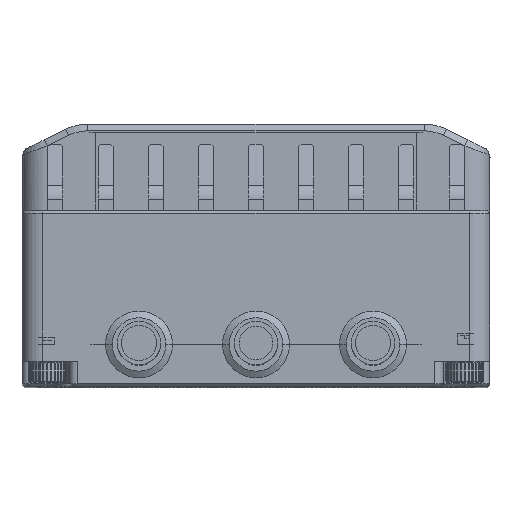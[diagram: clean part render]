
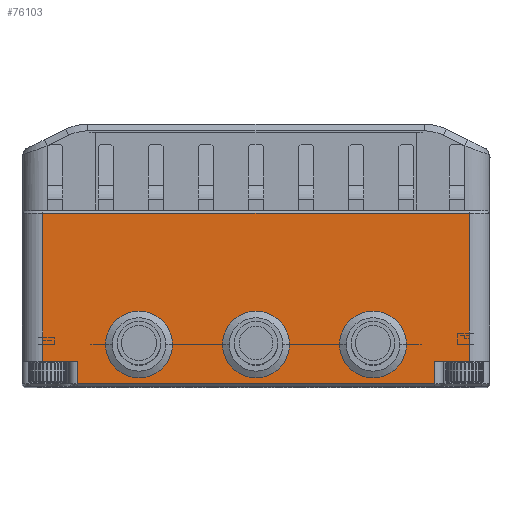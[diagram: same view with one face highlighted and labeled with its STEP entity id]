
A CAD part, top view. The second image highlights one B-rep face of the part: STEP entity #76103.
In plain terms, the highlighted planar face has unit normal (0, 0, 1).
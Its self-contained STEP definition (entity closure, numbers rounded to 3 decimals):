
#2261=DIRECTION('',(0.,-1.,0.));
#2262=VECTOR('',#2261,17.7);
#2263=CARTESIAN_POINT('',(-25.5,5.2,58.));
#2264=LINE('',#2263,#2262);
#2283=DIRECTION('',(0.,1.,0.));
#2284=VECTOR('',#2283,2.7);
#2285=CARTESIAN_POINT('',(21.4,-15.2,58.));
#2286=LINE('',#2285,#2284);
#2290=DIRECTION('',(-1.,0.,0.));
#2291=VECTOR('',#2290,42.8);
#2292=CARTESIAN_POINT('',(21.4,-15.2,58.));
#2293=LINE('',#2292,#2291);
#2297=DIRECTION('',(0.,-1.,0.));
#2298=VECTOR('',#2297,2.7);
#2299=CARTESIAN_POINT('',(-21.4,-12.5,58.));
#2300=LINE('',#2299,#2298);
#2304=DIRECTION('',(1.,0.,0.));
#2305=VECTOR('',#2304,51.);
#2306=CARTESIAN_POINT('',(-25.5,5.2,58.));
#2307=LINE('',#2306,#2305);
#2311=CARTESIAN_POINT('',(-14.,-10.5,58.));
#2312=DIRECTION('',(0.,0.,1.));
#2313=DIRECTION('',(-1.,0.,0.));
#2314=AXIS2_PLACEMENT_3D('',#2311,#2312,#2313);
#2319=CARTESIAN_POINT('',(-14.,-10.5,58.));
#2320=DIRECTION('',(0.,0.,1.));
#2321=DIRECTION('',(1.,0.,0.));
#2322=AXIS2_PLACEMENT_3D('',#2319,#2320,#2321);
#2327=CARTESIAN_POINT('',(0.,-10.5,58.));
#2328=DIRECTION('',(0.,0.,1.));
#2329=DIRECTION('',(-1.,0.,0.));
#2330=AXIS2_PLACEMENT_3D('',#2327,#2328,#2329);
#2335=CARTESIAN_POINT('',(0.,-10.5,58.));
#2336=DIRECTION('',(0.,0.,1.));
#2337=DIRECTION('',(1.,0.,0.));
#2338=AXIS2_PLACEMENT_3D('',#2335,#2336,#2337);
#2343=CARTESIAN_POINT('',(14.,-10.5,58.));
#2344=DIRECTION('',(0.,0.,1.));
#2345=DIRECTION('',(-1.,0.,0.));
#2346=AXIS2_PLACEMENT_3D('',#2343,#2344,#2345);
#2351=CARTESIAN_POINT('',(14.,-10.5,58.));
#2352=DIRECTION('',(0.,0.,1.));
#2353=DIRECTION('',(1.,0.,0.));
#2354=AXIS2_PLACEMENT_3D('',#2351,#2352,#2353);
#2366=DIRECTION('',(0.,1.,0.));
#2367=VECTOR('',#2366,17.7);
#2368=CARTESIAN_POINT('',(25.5,-12.5,58.));
#2369=LINE('',#2368,#2367);
#2528=DIRECTION('',(1.,0.,0.));
#2529=VECTOR('',#2528,4.1);
#2530=CARTESIAN_POINT('',(21.4,-12.5,58.));
#2531=LINE('',#2530,#2529);
#2609=DIRECTION('',(1.,0.,0.));
#2610=VECTOR('',#2609,4.1);
#2611=CARTESIAN_POINT('',(-25.5,-12.5,58.));
#2612=LINE('',#2611,#2610);
#66010=CARTESIAN_POINT('',(25.5,5.2,58.));
#66011=VERTEX_POINT('',#66010);
#66014=CARTESIAN_POINT('',(-25.5,5.2,
58.));
#66015=VERTEX_POINT('',#66014);
#66429=CARTESIAN_POINT('',(25.5,-12.5,58.));
#66431=VERTEX_POINT('',#66429);
#66432=CARTESIAN_POINT('',(-25.5,-12.5,58.));
#66434=VERTEX_POINT('',#66432);
#66592=CARTESIAN_POINT('',(21.4,-12.5,58.));
#66593=VERTEX_POINT('',#66592);
#66594=CARTESIAN_POINT('',(-21.4,-12.5,58.));
#66595=VERTEX_POINT('',#66594);
#66658=CARTESIAN_POINT('',(21.4,-15.2,58.));
#66659=VERTEX_POINT('',#66658);
#66662=CARTESIAN_POINT('',(-21.4,-15.2,
58.));
#66663=VERTEX_POINT('',#66662);
#73766=CARTESIAN_POINT('',(-18.,-10.5,58.));
#73767=CARTESIAN_POINT('',(-10.,-10.5,58.));
#73768=VERTEX_POINT('',#73766);
#73769=VERTEX_POINT('',#73767);
#73802=CARTESIAN_POINT('',(-4.,-10.5,58.));
#73803=CARTESIAN_POINT('',(4.,-10.5,58.));
#73804=VERTEX_POINT('',#73802);
#73805=VERTEX_POINT('',#73803);
#73838=CARTESIAN_POINT('',(10.,-10.5,58.));
#73839=CARTESIAN_POINT('',(18.,-10.5,58.));
#73840=VERTEX_POINT('',#73838);
#73841=VERTEX_POINT('',#73839);
#76064=CARTESIAN_POINT('',(-28.,-10.5,58.));
#76065=DIRECTION('',(0.,0.,1.));
#76066=DIRECTION('',(1.,0.,0.));
#76067=AXIS2_PLACEMENT_3D('',#76064,#76065,#76066);
#76068=PLANE('',#76067);
#76070=ORIENTED_EDGE('',*,*,#76069,.F.);
#76072=ORIENTED_EDGE('',*,*,#76071,.F.);
#76074=ORIENTED_EDGE('',*,*,#76073,.F.);
#76076=ORIENTED_EDGE('',*,*,#76075,.T.);
#76078=ORIENTED_EDGE('',*,*,#76077,.F.);
#76080=ORIENTED_EDGE('',*,*,#76079,.F.);
#76081=ORIENTED_EDGE('',*,*,#76054,.F.);
#76083=ORIENTED_EDGE('',*,*,#76082,.T.);
#76084=EDGE_LOOP('',(#76070,#76072,#76074,#76076,#76078,#76080,#76081,#76083));
#76085=FACE_OUTER_BOUND('',#76084,.F.);
#76087=ORIENTED_EDGE('',*,*,#76086,.T.);
#76089=ORIENTED_EDGE('',*,*,#76088,.T.);
#76090=EDGE_LOOP('',(#76087,#76089));
#76091=FACE_BOUND('',#76090,.F.);
#76093=ORIENTED_EDGE('',*,*,#76092,.T.);
#76095=ORIENTED_EDGE('',*,*,#76094,.T.);
#76096=EDGE_LOOP('',(#76093,#76095));
#76097=FACE_BOUND('',#76096,.F.);
#76099=ORIENTED_EDGE('',*,*,#76098,.T.);
#76100=ORIENTED_EDGE('',*,*,#74857,.T.);
#76101=EDGE_LOOP('',(#76099,#76100));
#76102=FACE_BOUND('',#76101,.F.);
#2315=CIRCLE('',#2314,4.);
#2323=CIRCLE('',#2322,4.);
#2331=CIRCLE('',#2330,4.);
#2339=CIRCLE('',#2338,4.);
#2347=CIRCLE('',#2346,4.);
#2355=CIRCLE('',#2354,4.);
#74857=EDGE_CURVE('',#73841,#73840,#2355,.T.);
#76054=EDGE_CURVE('',#66015,#66434,#2264,.T.);
#76069=EDGE_CURVE('',#66431,#66011,#2369,.T.);
#76071=EDGE_CURVE('',#66593,#66431,#2531,.T.);
#76073=EDGE_CURVE('',#66659,#66593,#2286,.T.);
#76075=EDGE_CURVE('',#66659,#66663,#2293,.T.);
#76077=EDGE_CURVE('',#66595,#66663,#2300,.T.);
#76079=EDGE_CURVE('',#66434,#66595,#2612,.T.);
#76082=EDGE_CURVE('',#66015,#66011,#2307,.T.);
#76086=EDGE_CURVE('',#73768,#73769,#2315,.T.);
#76088=EDGE_CURVE('',#73769,#73768,#2323,.T.);
#76092=EDGE_CURVE('',#73804,#73805,#2331,.T.);
#76094=EDGE_CURVE('',#73805,#73804,#2339,.T.);
#76098=EDGE_CURVE('',#73840,#73841,#2347,.T.);
#76103=ADVANCED_FACE('',(#76085,#76091,#76097,#76102),#76068,.T.);
